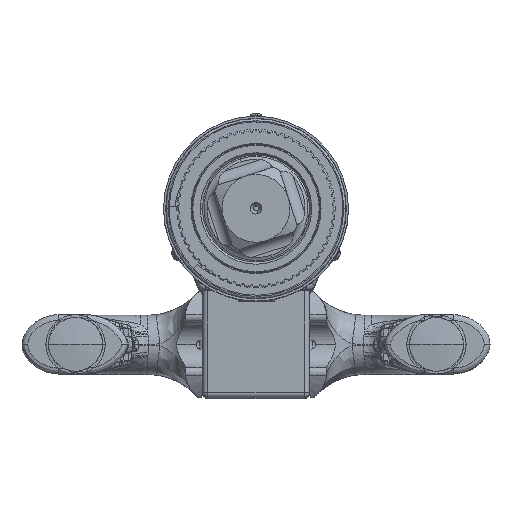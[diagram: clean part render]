
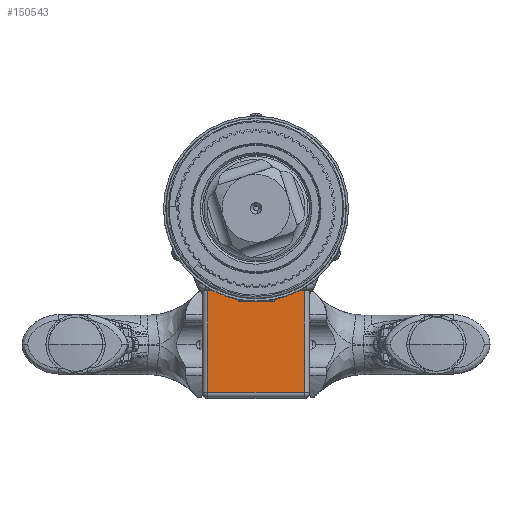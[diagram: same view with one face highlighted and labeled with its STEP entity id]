
A CAD part, top view. The second image highlights one B-rep face of the part: STEP entity #150543.
In plain terms, the highlighted planar face has unit normal (0, 0, 1).
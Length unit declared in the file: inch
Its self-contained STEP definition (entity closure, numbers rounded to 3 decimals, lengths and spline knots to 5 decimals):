
#586 = CARTESIAN_POINT ( 'NONE',  ( 1.0625, -1.8, -6.97 ) ) ;
#10191 = LINE ( 'NONE', #125038, #119045 ) ;
#14221 = CARTESIAN_POINT ( 'NONE',  ( -1.1875, -1.8, -6.97 ) ) ;
#14827 = VERTEX_POINT ( 'NONE', #161308 ) ;
#15226 = LINE ( 'NONE', #143820, #63344 ) ;
#16990 = EDGE_CURVE ( 'NONE', #135911, #26829, #105671, .T. ) ;
#21130 = FACE_OUTER_BOUND ( 'NONE', #119894, .T. ) ;
#26829 = VERTEX_POINT ( 'NONE', #116310 ) ;
#27127 = DIRECTION ( 'NONE',  ( 0., 1., 0. ) ) ;
#27977 = VECTOR ( 'NONE', #121077, 39.37008 ) ;
#40010 = DIRECTION ( 'NONE',  ( 0., -1., 0. ) ) ;
#41913 = VECTOR ( 'NONE', #156518, 39.37008 ) ;
#42665 = EDGE_CURVE ( 'NONE', #14827, #135911, #91345, .T. ) ;
#47380 = EDGE_CURVE ( 'NONE', #157221, #149507, #130903, .T. ) ;
#48981 = ORIENTED_EDGE ( 'NONE', *, *, #54977, .F. ) ;
#52786 = DIRECTION ( 'NONE',  ( 1., 0., 0. ) ) ;
#54977 = EDGE_CURVE ( 'NONE', #123835, #114386, #65654, .T. ) ;
#55261 = EDGE_CURVE ( 'NONE', #26829, #157221, #101795, .T. ) ;
#61393 = DIRECTION ( 'NONE',  ( 0., 0., 1. ) ) ;
#63344 = VECTOR ( 'NONE', #40010, 39.37008 ) ;
#65102 = ORIENTED_EDGE ( 'NONE', *, *, #42665, .T. ) ;
#65654 = LINE ( 'NONE', #159074, #115114 ) ;
#71833 = DIRECTION ( 'NONE',  ( 1., 0., 0. ) ) ;
#71904 = VECTOR ( 'NONE', #27127, 39.37008 ) ;
#79933 = ORIENTED_EDGE ( 'NONE', *, *, #119946, .T. ) ;
#84818 = ORIENTED_EDGE ( 'NONE', *, *, #47380, .T. ) ;
#91345 = LINE ( 'NONE', #14221, #41913 ) ;
#94448 = DIRECTION ( 'NONE',  ( 0., -1., 0. ) ) ;
#97973 = CARTESIAN_POINT ( 'NONE',  ( 1.0625, -1.8, -6.97 ) ) ;
#98516 = VERTEX_POINT ( 'NONE', #106610 ) ;
#99320 = DIRECTION ( 'NONE',  ( 0., 1., 0. ) ) ;
#101795 = LINE ( 'NONE', #154093, #104115 ) ;
#104081 = ORIENTED_EDGE ( 'NONE', *, *, #55261, .T. ) ;
#104115 = VECTOR ( 'NONE', #71833, 39.37008 ) ;
#105671 = LINE ( 'NONE', #133999, #126546 ) ;
#106610 = CARTESIAN_POINT ( 'NONE',  ( 0.375, -1.8, -6.97 ) ) ;
#108056 = ORIENTED_EDGE ( 'NONE', *, *, #130906, .F. ) ;
#113704 = DIRECTION ( 'NONE',  ( 1., 0., 0. ) ) ;
#114386 = VERTEX_POINT ( 'NONE', #164040 ) ;
#115114 = VECTOR ( 'NONE', #52786, 39.37008 ) ;
#116310 = CARTESIAN_POINT ( 'NONE',  ( -1.0625, -4.05, -6.97 ) ) ;
#119045 = VECTOR ( 'NONE', #99320, 39.37008 ) ;
#119894 = EDGE_LOOP ( 'NONE', ( #108056, #48981, #153444, #65102, #152382, #104081, #84818, #79933 ) ) ;
#119946 = EDGE_CURVE ( 'NONE', #149507, #98516, #134836, .T. ) ;
#121077 = DIRECTION ( 'NONE',  ( -1., 0., 0. ) ) ;
#123835 = VERTEX_POINT ( 'NONE', #140661 ) ;
#125038 = CARTESIAN_POINT ( 'NONE',  ( 0.375, -1.8, -6.97 ) ) ;
#126523 = CARTESIAN_POINT ( 'NONE',  ( 0., -2.9875, -6.97 ) ) ;
#126546 = VECTOR ( 'NONE', #94448, 39.37008 ) ;
#130903 = LINE ( 'NONE', #586, #71904 ) ;
#130906 = EDGE_CURVE ( 'NONE', #114386, #98516, #10191, .T. ) ;
#133999 = CARTESIAN_POINT ( 'NONE',  ( -1.0625, -4.175, -6.97 ) ) ;
#134836 = LINE ( 'NONE', #162183, #27977 ) ;
#135911 = VERTEX_POINT ( 'NONE', #155052 ) ;
#137718 = PLANE ( 'NONE',  #138049 ) ;
#137805 = EDGE_CURVE ( 'NONE', #14827, #123835, #15226, .T. ) ;
#138049 = AXIS2_PLACEMENT_3D ( 'NONE', #126523, #61393, #113704 ) ;
#140661 = CARTESIAN_POINT ( 'NONE',  ( -0.375, -2.04, -6.97 ) ) ;
#143820 = CARTESIAN_POINT ( 'NONE',  ( -0.375, -1.8, -6.97 ) ) ;
#149507 = VERTEX_POINT ( 'NONE', #97973 ) ;
#150543 = ADVANCED_FACE ( 'NONE', ( #21130 ), #137718, .T. ) ;
#152382 = ORIENTED_EDGE ( 'NONE', *, *, #16990, .T. ) ;
#153444 = ORIENTED_EDGE ( 'NONE', *, *, #137805, .F. ) ;
#154093 = CARTESIAN_POINT ( 'NONE',  ( 1.1875, -4.05, -6.97 ) ) ;
#155052 = CARTESIAN_POINT ( 'NONE',  ( -1.0625, -1.8, -6.97 ) ) ;
#156518 = DIRECTION ( 'NONE',  ( -1., 0., 0. ) ) ;
#157221 = VERTEX_POINT ( 'NONE', #163323 ) ;
#159074 = CARTESIAN_POINT ( 'NONE',  ( -0.375, -2.04, -6.97 ) ) ;
#161308 = CARTESIAN_POINT ( 'NONE',  ( -0.375, -1.8, -6.97 ) ) ;
#162183 = CARTESIAN_POINT ( 'NONE',  ( -1.1875, -1.8, -6.97 ) ) ;
#163323 = CARTESIAN_POINT ( 'NONE',  ( 1.0625, -4.05, -6.97 ) ) ;
#164040 = CARTESIAN_POINT ( 'NONE',  ( 0.375, -2.04, -6.97 ) ) ;
